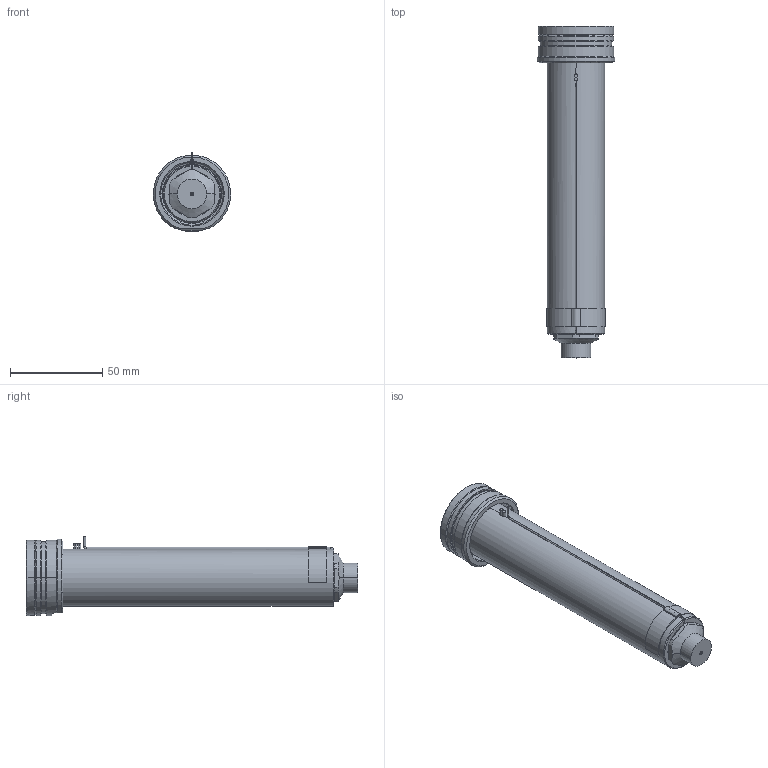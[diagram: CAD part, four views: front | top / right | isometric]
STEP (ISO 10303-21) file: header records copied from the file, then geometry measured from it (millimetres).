
FILE_DESCRIPTION((''),'2;1');
FILE_NAME('EO12_PG-FB_WR_160_SW','2024-02-19T11:39:55',('sundharh'),(''),'CREO PARAMETRIC BY PTC INC, 2023154','CREO PARAMETRIC BY PTC INC, 2023154','');
FILE_SCHEMA(('CONFIG_CONTROL_DESIGN'));
Length unit declared in the file: millimetre
Products named in the file (1): EO12_PG-FB_WR_160_SW
Bounding box: 41.85 x 180 x 43 mm (x, y, z)
Volume: 119993.8 mm3; surface area: 32694.4 mm2
Topology: 2 solids, 3 shells, 217 faces, 573 edges, 352 vertices
Faces by surface type: cylinder 82, plane 59, cone 43, torus 27, sphere 3, bspline 3
Entity records: 7816 total; most frequent: CARTESIAN_POINT 2317, DIRECTION 1219, ORIENTED_EDGE 1134, EDGE_CURVE 567, AXIS2_PLACEMENT_3D 513, VERTEX_POINT 352, CIRCLE 299, EDGE_LOOP 235
